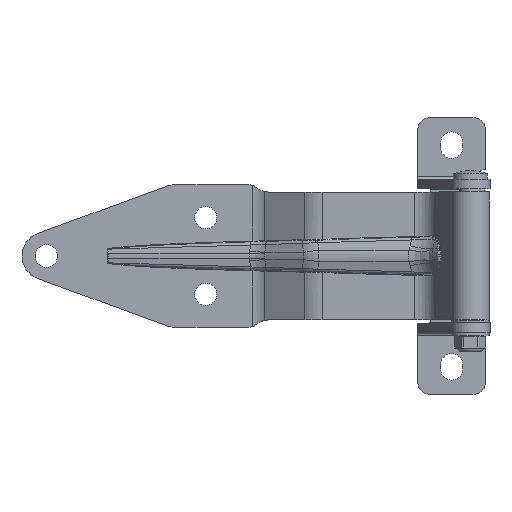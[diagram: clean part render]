
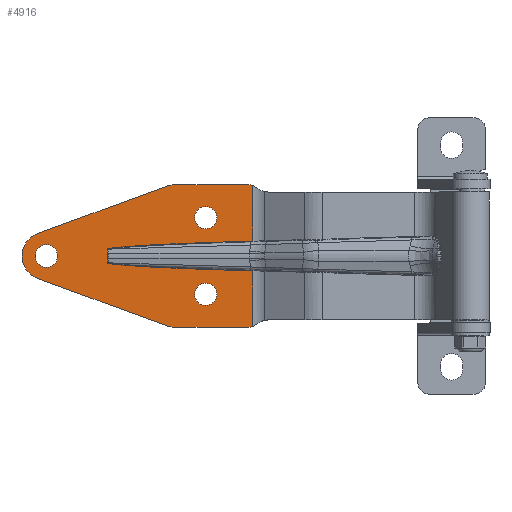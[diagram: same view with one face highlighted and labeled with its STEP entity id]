
A CAD part, top view. The second image highlights one B-rep face of the part: STEP entity #4916.
In plain terms, the highlighted planar face has unit normal (0, 0, 1) as drawn and (0, 1, 0) by its records, which use the part's own axes.
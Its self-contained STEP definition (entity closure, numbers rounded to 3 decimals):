
#53=ELLIPSE('',#5183,56.107,2.);
#57=ELLIPSE('',#5194,56.107,2.);
#114=PLANE('',#5269);
#220=LINE('',#7222,#562);
#221=LINE('',#7251,#563);
#222=LINE('',#7271,#564);
#223=LINE('',#7304,#565);
#224=LINE('',#7336,#566);
#225=LINE('',#7360,#567);
#226=LINE('',#7386,#568);
#234=LINE('',#7484,#576);
#240=LINE('',#8104,#582);
#244=LINE('',#8519,#586);
#261=LINE('',#8566,#603);
#262=LINE('',#8586,#604);
#263=LINE('',#8590,#605);
#264=LINE('',#8594,#606);
#265=LINE('',#8598,#607);
#562=VECTOR('',#5743,1.827);
#563=VECTOR('',#5746,2.506);
#564=VECTOR('',#5749,0.063);
#565=VECTOR('',#5752,1.827);
#566=VECTOR('',#5753,0.358);
#567=VECTOR('',#5756,0.063);
#568=VECTOR('',#5757,0.358);
#576=VECTOR('',#5795,14.18);
#582=VECTOR('',#5885,14.18);
#586=VECTOR('',#5925,26.125);
#603=VECTOR('',#5974,26.125);
#604=VECTOR('',#5979,34.74);
#605=VECTOR('',#5982,64.848);
#606=VECTOR('',#5985,64.848);
#607=VECTOR('',#5988,34.74);
#1072=FACE_BOUND('',#1479,.T.);
#1073=FACE_BOUND('',#1480,.T.);
#1074=FACE_BOUND('',#1481,.T.);
#1169=FACE_OUTER_BOUND('',#1478,.T.);
#1478=EDGE_LOOP('',(#3522,#3523,#3524,#3525,#3526,#3527,#3528,#3529,#3530,
#3531,#3532,#3533,#3534,#3535,#3536,#3537,#3538,#3539,#3540,#3541,#3542,
#3543));
#1479=EDGE_LOOP('',(#3544));
#1480=EDGE_LOOP('',(#3545));
#1481=EDGE_LOOP('',(#3546));
#1754=CIRCLE('',#5165,5.25);
#1756=CIRCLE('',#5168,5.25);
#1758=CIRCLE('',#5171,5.25);
#1810=CIRCLE('',#5270,5.);
#1811=CIRCLE('',#5271,10.);
#1812=CIRCLE('',#5272,11.25);
#1813=CIRCLE('',#5273,10.);
#1814=CIRCLE('',#5274,5.);
#2011=VERTEX_POINT('',#7179);
#2013=VERTEX_POINT('',#7184);
#2015=VERTEX_POINT('',#7189);
#2016=VERTEX_POINT('',#7211);
#2019=VERTEX_POINT('',#7220);
#2020=VERTEX_POINT('',#7243);
#2023=VERTEX_POINT('',#7269);
#2024=VERTEX_POINT('',#7296);
#2026=VERTEX_POINT('',#7329);
#2027=VERTEX_POINT('',#7353);
#2029=VERTEX_POINT('',#7385);
#2035=VERTEX_POINT('',#7442);
#2040=VERTEX_POINT('',#7474);
#2042=VERTEX_POINT('',#7480);
#2096=VERTEX_POINT('',#8100);
#2116=VERTEX_POINT('',#8514);
#2130=VERTEX_POINT('',#8565);
#2132=VERTEX_POINT('',#8583);
#2133=VERTEX_POINT('',#8585);
#2134=VERTEX_POINT('',#8587);
#2135=VERTEX_POINT('',#8589);
#2136=VERTEX_POINT('',#8591);
#2137=VERTEX_POINT('',#8593);
#2138=VERTEX_POINT('',#8595);
#2139=VERTEX_POINT('',#8597);
#2488=EDGE_CURVE('',#2011,#2011,#1754,.T.);
#2490=EDGE_CURVE('',#2013,#2013,#1756,.T.);
#2492=EDGE_CURVE('',#2015,#2015,#1758,.T.);
#2496=EDGE_CURVE('',#2016,#2019,#220,.T.);
#2499=EDGE_CURVE('',#2020,#2016,#221,.T.);
#2501=EDGE_CURVE('',#2019,#2023,#222,.T.);
#2505=EDGE_CURVE('',#2024,#2020,#223,.T.);
#2507=EDGE_CURVE('',#2023,#2026,#224,.T.);
#2510=EDGE_CURVE('',#2027,#2024,#225,.T.);
#2511=EDGE_CURVE('',#2029,#2027,#226,.T.);
#2520=EDGE_CURVE('',#2029,#2035,#53,.T.);
#2531=EDGE_CURVE('',#2040,#2042,#234,.T.);
#2533=EDGE_CURVE('',#2042,#2026,#57,.T.);
#2602=EDGE_CURVE('',#2035,#2096,#240,.T.);
#2644=EDGE_CURVE('',#2116,#2040,#244,.T.);
#2667=EDGE_CURVE('',#2096,#2130,#261,.T.);
#2670=EDGE_CURVE('',#2132,#2116,#1810,.T.);
#2671=EDGE_CURVE('',#2133,#2132,#262,.T.);
#2672=EDGE_CURVE('',#2134,#2133,#1811,.T.);
#2673=EDGE_CURVE('',#2135,#2134,#263,.T.);
#2674=EDGE_CURVE('',#2136,#2135,#1812,.T.);
#2675=EDGE_CURVE('',#2137,#2136,#264,.T.);
#2676=EDGE_CURVE('',#2138,#2137,#1813,.T.);
#2677=EDGE_CURVE('',#2139,#2138,#265,.T.);
#2678=EDGE_CURVE('',#2130,#2139,#1814,.T.);
#3522=ORIENTED_EDGE('',*,*,#2511,.T.);
#3523=ORIENTED_EDGE('',*,*,#2510,.T.);
#3524=ORIENTED_EDGE('',*,*,#2505,.T.);
#3525=ORIENTED_EDGE('',*,*,#2499,.T.);
#3526=ORIENTED_EDGE('',*,*,#2496,.T.);
#3527=ORIENTED_EDGE('',*,*,#2501,.T.);
#3528=ORIENTED_EDGE('',*,*,#2507,.T.);
#3529=ORIENTED_EDGE('',*,*,#2533,.F.);
#3530=ORIENTED_EDGE('',*,*,#2531,.F.);
#3531=ORIENTED_EDGE('',*,*,#2644,.F.);
#3532=ORIENTED_EDGE('',*,*,#2670,.F.);
#3533=ORIENTED_EDGE('',*,*,#2671,.F.);
#3534=ORIENTED_EDGE('',*,*,#2672,.F.);
#3535=ORIENTED_EDGE('',*,*,#2673,.F.);
#3536=ORIENTED_EDGE('',*,*,#2674,.F.);
#3537=ORIENTED_EDGE('',*,*,#2675,.F.);
#3538=ORIENTED_EDGE('',*,*,#2676,.F.);
#3539=ORIENTED_EDGE('',*,*,#2677,.F.);
#3540=ORIENTED_EDGE('',*,*,#2678,.F.);
#3541=ORIENTED_EDGE('',*,*,#2667,.F.);
#3542=ORIENTED_EDGE('',*,*,#2602,.F.);
#3543=ORIENTED_EDGE('',*,*,#2520,.F.);
#3544=ORIENTED_EDGE('',*,*,#2488,.T.);
#3545=ORIENTED_EDGE('',*,*,#2490,.T.);
#3546=ORIENTED_EDGE('',*,*,#2492,.T.);
#4916=ADVANCED_FACE('',(#1169,#1072,#1073,#1074),#114,.T.);
#5165=AXIS2_PLACEMENT_3D('',#7180,#5725,#5726);
#5168=AXIS2_PLACEMENT_3D('',#7185,#5731,#5732);
#5171=AXIS2_PLACEMENT_3D('',#7190,#5737,#5738);
#5183=AXIS2_PLACEMENT_3D('',#7443,#5772,#5773);
#5194=AXIS2_PLACEMENT_3D('',#7516,#5798,#5799);
#5269=AXIS2_PLACEMENT_3D('',#8582,#5975,#5976);
#5270=AXIS2_PLACEMENT_3D('',#8584,#5977,#5978);
#5271=AXIS2_PLACEMENT_3D('',#8588,#5980,#5981);
#5272=AXIS2_PLACEMENT_3D('',#8592,#5983,#5984);
#5273=AXIS2_PLACEMENT_3D('',#8596,#5986,#5987);
#5274=AXIS2_PLACEMENT_3D('',#8599,#5989,#5990);
#5725=DIRECTION('center_axis',(0.,-1.,0.));
#5726=DIRECTION('ref_axis',(-1.,0.,0.));
#5731=DIRECTION('center_axis',(0.,-1.,0.));
#5732=DIRECTION('ref_axis',(-1.,0.,0.));
#5737=DIRECTION('center_axis',(0.,-1.,0.));
#5738=DIRECTION('ref_axis',(-1.,0.,0.));
#5743=DIRECTION('',(0.,0.,1.));
#5746=DIRECTION('',(0.,0.,1.));
#5749=DIRECTION('',(0.,0.,1.));
#5752=DIRECTION('',(0.,0.,1.));
#5753=DIRECTION('',(0.,0.,1.));
#5756=DIRECTION('',(0.,0.,1.));
#5757=DIRECTION('',(0.,0.,1.));
#5772=DIRECTION('center_axis',(0.,1.,0.));
#5773=DIRECTION('ref_axis',(1.,0.,0.029));
#5795=DIRECTION('',(1.,0.,-0.029));
#5798=DIRECTION('center_axis',(0.,1.,0.));
#5799=DIRECTION('ref_axis',(1.,0.,-0.029));
#5885=DIRECTION('',(-1.,0.,-0.029));
#5925=DIRECTION('',(0.,0.,-1.));
#5974=DIRECTION('',(0.,0.,-1.));
#5975=DIRECTION('center_axis',(0.,1.,0.));
#5976=DIRECTION('ref_axis',(-1.,0.,0.));
#5977=DIRECTION('center_axis',(0.,-1.,0.));
#5978=DIRECTION('ref_axis',(-0.336,0.,0.942));
#5979=DIRECTION('',(-1.,0.,0.));
#5980=DIRECTION('center_axis',(0.,-1.,0.));
#5981=DIRECTION('ref_axis',(0.175,0.,0.985));
#5982=DIRECTION('',(-0.939,0.,0.344));
#5983=DIRECTION('center_axis',(0.,-1.,0.));
#5984=DIRECTION('ref_axis',(1.,0.,0.));
#5985=DIRECTION('',(0.939,0.,0.344));
#5986=DIRECTION('center_axis',(0.,-1.,0.));
#5987=DIRECTION('ref_axis',(0.175,0.,-0.985));
#5988=DIRECTION('',(1.,0.,0.));
#5989=DIRECTION('center_axis',(0.,-1.,0.));
#5990=DIRECTION('ref_axis',(-0.336,0.,-0.942));
#7179=CARTESIAN_POINT('',(-6.25,4.5,0.));
#7180=CARTESIAN_POINT('Origin',(-11.5,4.5,0.));
#7184=CARTESIAN_POINT('',(-81.,4.5,18.));
#7185=CARTESIAN_POINT('Origin',(-86.25,4.5,18.));
#7189=CARTESIAN_POINT('',(-81.,4.5,-18.));
#7190=CARTESIAN_POINT('Origin',(-86.25,4.5,-18.));
#7211=CARTESIAN_POINT('',(-40.,4.5,1.253));
#7220=CARTESIAN_POINT('',(-40.,4.5,3.08));
#7222=CARTESIAN_POINT('',(-40.,4.5,0.));
#7243=CARTESIAN_POINT('',(-40.,4.5,-1.253));
#7251=CARTESIAN_POINT('',(-40.,4.5,0.));
#7269=CARTESIAN_POINT('',(-40.,4.5,3.143));
#7271=CARTESIAN_POINT('',(-40.,4.5,0.));
#7296=CARTESIAN_POINT('',(-40.,4.5,-3.08));
#7304=CARTESIAN_POINT('',(-40.,4.5,0.));
#7329=CARTESIAN_POINT('',(-40.,4.5,3.501));
#7336=CARTESIAN_POINT('',(-40.,4.5,0.));
#7353=CARTESIAN_POINT('',(-40.,4.5,-3.143));
#7360=CARTESIAN_POINT('',(-40.,4.5,0.));
#7385=CARTESIAN_POINT('',(-40.,4.5,-3.501));
#7386=CARTESIAN_POINT('',(-40.,4.5,0.));
#7442=CARTESIAN_POINT('',(-94.253,4.5,-6.558));
#7443=CARTESIAN_POINT('Origin',(-94.311,4.5,-4.559));
#7474=CARTESIAN_POINT('',(-108.428,4.5,6.965));
#7480=CARTESIAN_POINT('',(-94.253,4.5,6.558));
#7484=CARTESIAN_POINT('',(-98.309,4.5,6.674));
#7516=CARTESIAN_POINT('Origin',(-94.311,4.5,4.559));
#8100=CARTESIAN_POINT('',(-108.428,4.5,-6.965));
#8104=CARTESIAN_POINT('',(-19.938,4.5,-4.424));
#8514=CARTESIAN_POINT('',(-108.428,4.5,33.089));
#8519=CARTESIAN_POINT('',(-108.428,4.5,0.));
#8565=CARTESIAN_POINT('',(-108.428,4.5,-33.089));
#8566=CARTESIAN_POINT('',(-108.428,4.5,0.));
#8582=CARTESIAN_POINT('Origin',(0.,4.5,0.));
#8583=CARTESIAN_POINT('',(-106.443,4.5,33.5));
#8584=CARTESIAN_POINT('Origin',(-106.443,4.5,28.5));
#8585=CARTESIAN_POINT('',(-71.703,4.5,33.5));
#8586=CARTESIAN_POINT('',(0.,4.5,33.5));
#8587=CARTESIAN_POINT('',(-68.261,4.5,32.889));
#8588=CARTESIAN_POINT('Origin',(-71.703,4.5,23.5));
#8589=CARTESIAN_POINT('',(-7.377,4.5,10.562));
#8590=CARTESIAN_POINT('',(-33.694,4.5,20.213));
#8591=CARTESIAN_POINT('',(-7.377,4.5,-10.562));
#8592=CARTESIAN_POINT('Origin',(-11.25,4.5,0.));
#8593=CARTESIAN_POINT('',(-68.261,4.5,-32.889));
#8594=CARTESIAN_POINT('',(-2.419,4.5,-8.744));
#8595=CARTESIAN_POINT('',(-71.703,4.5,-33.5));
#8596=CARTESIAN_POINT('Origin',(-71.703,4.5,-23.5));
#8597=CARTESIAN_POINT('',(-106.443,4.5,-33.5));
#8598=CARTESIAN_POINT('',(0.,4.5,-33.5));
#8599=CARTESIAN_POINT('Origin',(-106.443,4.5,-28.5));
